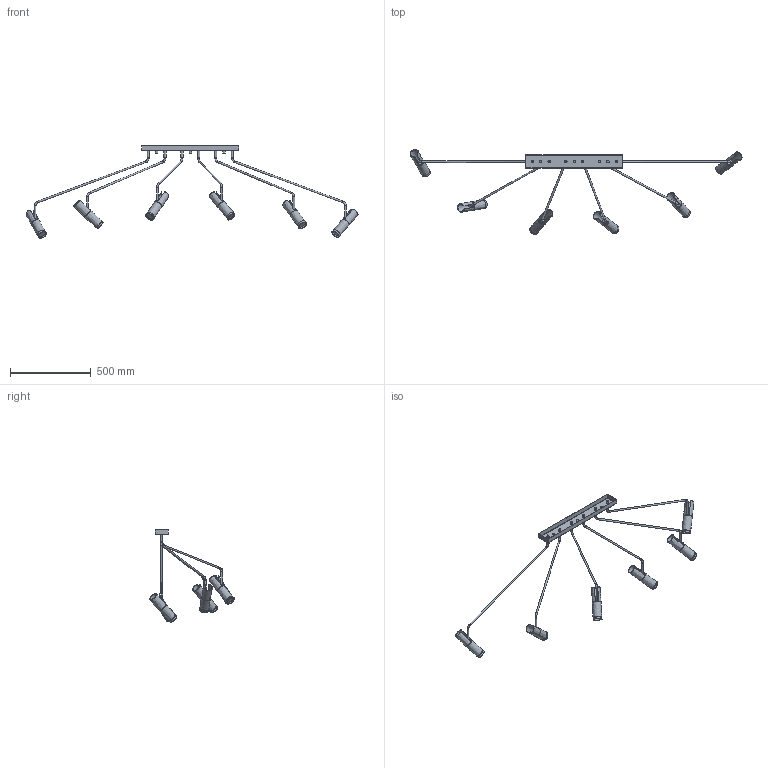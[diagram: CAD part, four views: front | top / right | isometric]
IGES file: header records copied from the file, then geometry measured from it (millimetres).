
Start section: SolidWorks IGES file using NURBS representation for surfaces
Global section: file name: Z:\Modele 3D_WWW\_KOLEKCJE WWW\EYE-SUPER\EYE-SUPER-6492-6498-6505\EYE-SUPER-6492-6498-6505.IGS; native system: SolidWorks 2021; preprocessor: SolidWorks 2021; author: gabriela.tworek; date: 220323.125241; units: millimetre
Bounding box: 2054.25 x 524 x 571.72 mm (x, y, z)
Surface area: 777199 mm2 (no closed solid volume)
Topology: 0 solids, 0 shells, 203 faces, 993 edges, 924 vertices
Faces by surface type: bspline 203
